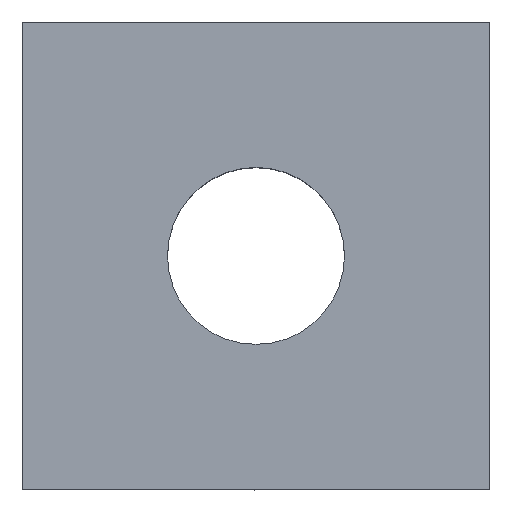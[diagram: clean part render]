
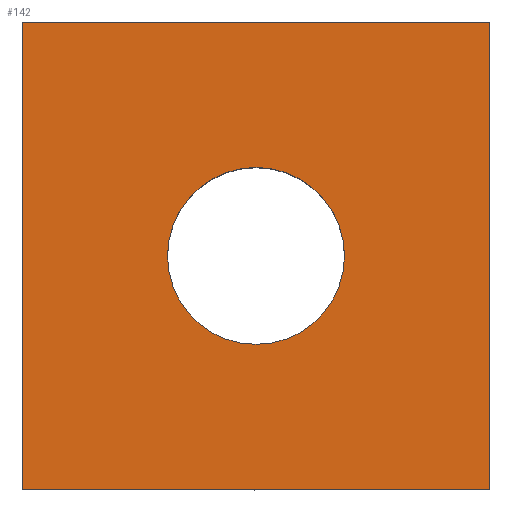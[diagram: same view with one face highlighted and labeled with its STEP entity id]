
A CAD part, top view. The second image highlights one B-rep face of the part: STEP entity #142.
In plain terms, the highlighted planar face has unit normal (0, 0, 1).
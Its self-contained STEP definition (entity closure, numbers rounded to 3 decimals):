
#15=FACE_BOUND('',#57,.T.);
#19=LINE('',#337,#28);
#22=LINE('',#342,#31);
#25=LINE('',#352,#34);
#26=LINE('',#354,#35);
#28=VECTOR('',#181,10.);
#31=VECTOR('',#186,10.);
#34=VECTOR('',#197,10.);
#35=VECTOR('',#200,10.);
#40=PLANE('',#172);
#48=FACE_OUTER_BOUND('',#56,.T.);
#56=EDGE_LOOP('',(#128,#129,#130,#131));
#57=EDGE_LOOP('',(#132));
#61=CIRCLE('',#168,2.459);
#75=VERTEX_POINT('',#334);
#76=VERTEX_POINT('',#336);
#77=VERTEX_POINT('',#340);
#78=VERTEX_POINT('',#344);
#80=VERTEX_POINT('',#350);
#89=EDGE_CURVE('',#76,#75,#19,.T.);
#92=EDGE_CURVE('',#75,#77,#22,.T.);
#93=EDGE_CURVE('',#78,#78,#61,.T.);
#97=EDGE_CURVE('',#77,#80,#25,.T.);
#98=EDGE_CURVE('',#80,#76,#26,.T.);
#128=ORIENTED_EDGE('',*,*,#98,.T.);
#129=ORIENTED_EDGE('',*,*,#89,.T.);
#130=ORIENTED_EDGE('',*,*,#92,.T.);
#131=ORIENTED_EDGE('',*,*,#97,.T.);
#132=ORIENTED_EDGE('',*,*,#93,.T.);
#142=ADVANCED_FACE('',(#48,#15),#40,.T.);
#168=AXIS2_PLACEMENT_3D('',#345,#189,#190);
#172=AXIS2_PLACEMENT_3D('',#355,#201,#202);
#181=DIRECTION('',(0.,1.,0.));
#186=DIRECTION('',(-1.,0.,0.));
#189=DIRECTION('center_axis',(0.,0.,-1.));
#190=DIRECTION('ref_axis',(1.,0.,0.));
#197=DIRECTION('',(0.,-1.,0.));
#200=DIRECTION('',(1.,0.,0.));
#201=DIRECTION('center_axis',(0.,0.,1.));
#202=DIRECTION('ref_axis',(1.,0.,0.));
#334=CARTESIAN_POINT('',(6.5,6.5,5.8));
#336=CARTESIAN_POINT('',(6.5,-6.5,5.8));
#337=CARTESIAN_POINT('',(6.5,-6.5,5.8));
#340=CARTESIAN_POINT('',(-6.5,6.5,5.8));
#342=CARTESIAN_POINT('',(6.5,6.5,5.8));
#344=CARTESIAN_POINT('',(-2.459,0.,5.8));
#345=CARTESIAN_POINT('Origin',(0.,0.,5.8));
#350=CARTESIAN_POINT('',(-6.5,-6.5,5.8));
#352=CARTESIAN_POINT('',(-6.5,6.5,5.8));
#354=CARTESIAN_POINT('',(-6.5,-6.5,5.8));
#355=CARTESIAN_POINT('Origin',(0.,0.,5.8));
